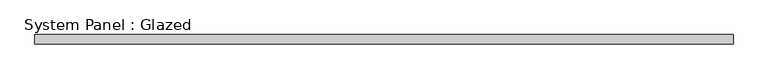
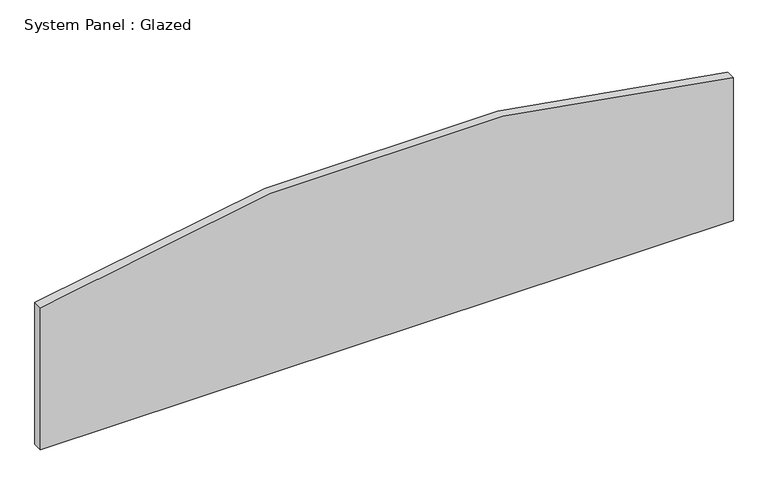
"""IFC4 building model written with IfcOpenShell, lengths in millimetres: plate geometry, System Panel : Glazed."""

from ifc_helpers import new_model, si_unit, point, frame, frame_2d, origin, place, context, project, spatial, polyline, circle_curve, trimmed, segment, composite_curve, outline, extrude, source, transform, mapped, element, save


def system_panel_glazed_3c5eea1a(model_context):
    return source(origin(), model_context, "Body", "SweptSolid", [
        extrude(outline(composite_curve([segment(polyline([(0.0, -933.45), (0.0, 933.45), (407.516384, 933.45)]), True, "CONTINUOUS"), segment(trimmed(circle_curve(frame_2d((-3131.2800218, 4.6308928)), 3658.6588985), [point((407.516384, 933.45))], [point((405.0725022, -933.45))], False, "CARTESIAN"), True, "CONTINUOUS"), segment(polyline([(405.0725022, -933.45), (0.0, -933.45)]), True, "CONTINUOUS")], self_intersect=False)), frame((0.0, 19.05, 0.0), z_axis=(0.0, 1.0, 0.0), x_axis=(0.0, 0.0, 1.0)), (0.0, 0.0, 1.0), 25.4),
    ])


if __name__ == "__main__":
    model = new_model("IFC4")
    model_context = context("Model", 3, world=origin())
    ifc_project = project(units=[si_unit("LENGTHUNIT", "METRE", prefix="MILLI")], contexts=[model_context])
    site = spatial("IfcSite", under=ifc_project)
    building = spatial("IfcBuilding", under=site)
    placement = place(None, origin())
    system_panel_glazed_shape = system_panel_glazed_3c5eea1a(model_context)
    element("IfcPlate", 1, ObjectType="System Panel : Glazed", at=placement, inside=building, context=model_context, shape_type="MappedRepresentation", body=[
        mapped(system_panel_glazed_shape, transform((0.0, 0.0, 0.0), x_axis=(1.0, 0.0, 0.0), y_axis=(0.0, 1.0, 0.0), z_axis=(0.0, 0.0, 1.0))),
    ])
    save(model, "model.ifc")
